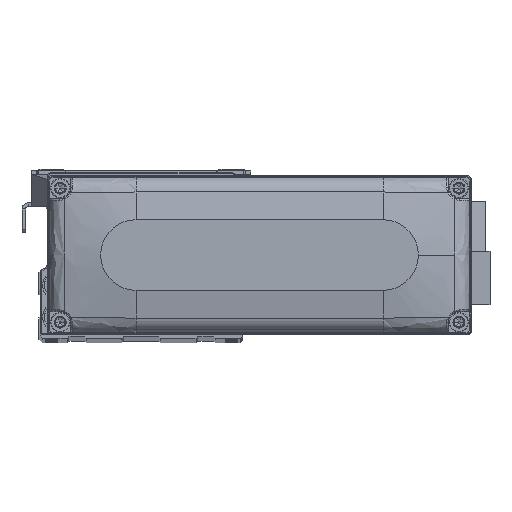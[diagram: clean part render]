
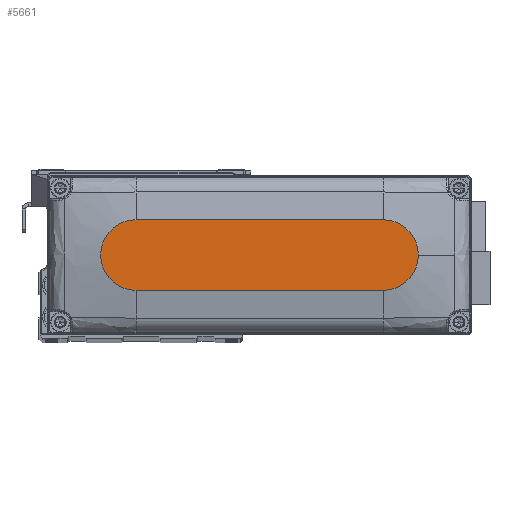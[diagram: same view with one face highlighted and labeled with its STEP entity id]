
A CAD part, top view. The second image highlights one B-rep face of the part: STEP entity #5661.
In plain terms, the highlighted planar face has unit normal (0, 0, 1).
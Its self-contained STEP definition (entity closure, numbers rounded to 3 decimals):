
#134 = EDGE_CURVE ( 'NONE', #13634, #4158, #14670, .T. ) ;
#1049 = CARTESIAN_POINT ( 'NONE',  ( 35., 10., 28. ) ) ;
#2076 = CARTESIAN_POINT ( 'NONE',  ( 35., -10., 28. ) ) ;
#2191 = DIRECTION ( 'NONE',  ( 1., 0., 0. ) ) ;
#2639 = PLANE ( 'NONE',  #15489 ) ;
#3061 = DIRECTION ( 'NONE',  ( 0., 0., 1. ) ) ;
#4158 = VERTEX_POINT ( 'NONE', #18262 ) ;
#4971 = DIRECTION ( 'NONE',  ( 0., 0., 1. ) ) ;
#5193 = EDGE_CURVE ( 'NONE', #19456, #13306, #5827, .T. ) ;
#5611 = EDGE_CURVE ( 'NONE', #4158, #19456, #36833, .T. ) ;
#5661 = ADVANCED_FACE ( 'NONE', ( #33163 ), #2639, .T. ) ;
#5827 = LINE ( 'NONE', #19425, #38923 ) ;
#9304 = EDGE_CURVE ( 'NONE', #13306, #31376, #34669, .T. ) ;
#10824 = CARTESIAN_POINT ( 'NONE',  ( -35., -10., 28. ) ) ;
#10980 = ORIENTED_EDGE ( 'NONE', *, *, #21450, .T. ) ;
#13306 = VERTEX_POINT ( 'NONE', #16021 ) ;
#13307 = AXIS2_PLACEMENT_3D ( 'NONE', #35500, #4971, #18578 ) ;
#13634 = VERTEX_POINT ( 'NONE', #2076 ) ;
#14670 = CIRCLE ( 'NONE', #13307, 10. ) ;
#14885 = LINE ( 'NONE', #28447, #27002 ) ;
#15489 = AXIS2_PLACEMENT_3D ( 'NONE', #16243, #29817, #43424 ) ;
#15497 = AXIS2_PLACEMENT_3D ( 'NONE', #33582, #3061, #16663 ) ;
#15689 = ORIENTED_EDGE ( 'NONE', *, *, #5193, .T. ) ;
#16021 = CARTESIAN_POINT ( 'NONE',  ( -35., 10., 28. ) ) ;
#16243 = CARTESIAN_POINT ( 'NONE',  ( 0., 0., 28. ) ) ;
#16663 = DIRECTION ( 'NONE',  ( 1., 0., 0. ) ) ;
#17602 = AXIS2_PLACEMENT_3D ( 'NONE', #22483, #32713, #2191 ) ;
#18262 = CARTESIAN_POINT ( 'NONE',  ( 45., 0., 28. ) ) ;
#18578 = DIRECTION ( 'NONE',  ( 1., 0., 0. ) ) ;
#19425 = CARTESIAN_POINT ( 'NONE',  ( -35., 10., 28. ) ) ;
#19456 = VERTEX_POINT ( 'NONE', #1049 ) ;
#21450 = EDGE_CURVE ( 'NONE', #31376, #13634, #14885, .T. ) ;
#22483 = CARTESIAN_POINT ( 'NONE',  ( 35., 0., 28. ) ) ;
#27002 = VECTOR ( 'NONE', #42054, 1000. ) ;
#28447 = CARTESIAN_POINT ( 'NONE',  ( -35., -10., 28. ) ) ;
#29817 = DIRECTION ( 'NONE',  ( 0., 0., 1. ) ) ;
#30865 = ORIENTED_EDGE ( 'NONE', *, *, #5611, .T. ) ;
#31376 = VERTEX_POINT ( 'NONE', #10824 ) ;
#32713 = DIRECTION ( 'NONE',  ( 0., 0., 1. ) ) ;
#32994 = DIRECTION ( 'NONE',  ( -1., 0., 0. ) ) ;
#33163 = FACE_OUTER_BOUND ( 'NONE', #41333, .T. ) ;
#33582 = CARTESIAN_POINT ( 'NONE',  ( -35., 0., 28. ) ) ;
#34669 = CIRCLE ( 'NONE', #15497, 10. ) ;
#35500 = CARTESIAN_POINT ( 'NONE',  ( 35., 0., 28. ) ) ;
#36771 = ORIENTED_EDGE ( 'NONE', *, *, #9304, .T. ) ;
#36833 = CIRCLE ( 'NONE', #17602, 10. ) ;
#38923 = VECTOR ( 'NONE', #32994, 1000. ) ;
#39362 = ORIENTED_EDGE ( 'NONE', *, *, #134, .T. ) ;
#41333 = EDGE_LOOP ( 'NONE', ( #15689, #36771, #10980, #39362, #30865 ) ) ;
#42054 = DIRECTION ( 'NONE',  ( 1., 0., 0. ) ) ;
#43424 = DIRECTION ( 'NONE',  ( 1., 0., 0. ) ) ;
